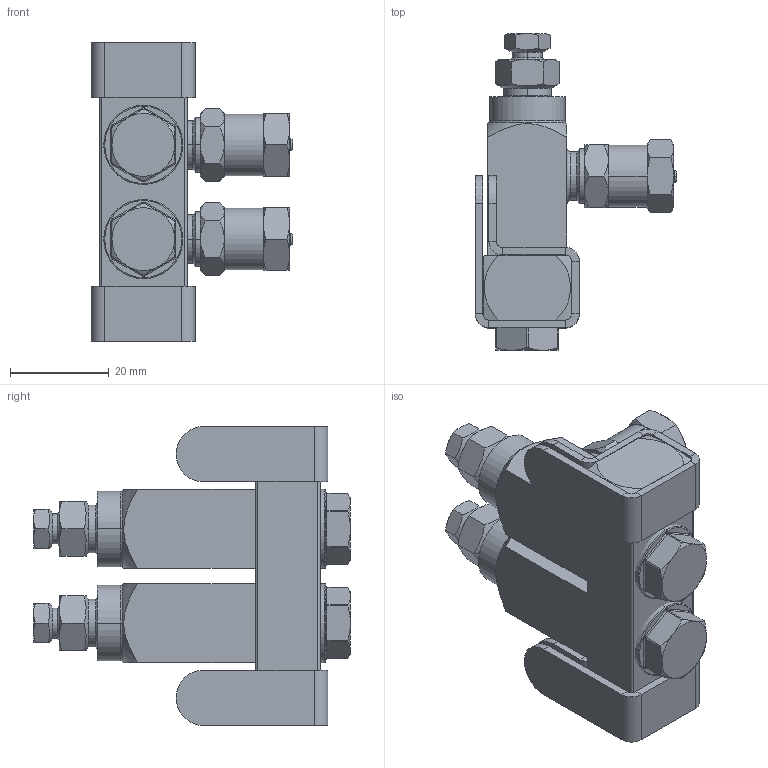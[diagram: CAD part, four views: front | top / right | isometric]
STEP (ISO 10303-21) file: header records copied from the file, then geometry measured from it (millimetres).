
FILE_DESCRIPTION((''),'2;1');
FILE_NAME('24W402-EN-D_PRT','2020-05-18T16:35:03',('qusrh3'),(''),'CREO PARAMETRIC BY PTC INC, 2019030','CREO PARAMETRIC BY PTC INC, 2019030','');
FILE_SCHEMA(('CONFIG_CONTROL_DESIGN'));
Length unit declared in the file: inch
Products named in the file (1): 24W402-EN-D_PRT
Bounding box: 40.76 x 64.06 x 60.45 mm (x, y, z)
Surface area: 19233.6 mm2 (no closed solid volume)
Topology: 0 solids, 23 shells, 370 faces, 828 edges, 484 vertices
Faces by surface type: plane 150, cone 112, cylinder 80, torus 28
Entity records: 11228 total; most frequent: CARTESIAN_POINT 3418, ORIENTED_EDGE 1592, DIRECTION 1588, EDGE_CURVE 828, AXIS2_PLACEMENT_3D 642, VERTEX_POINT 484, EDGE_LOOP 370, FACE_OUTER_BOUND 370
